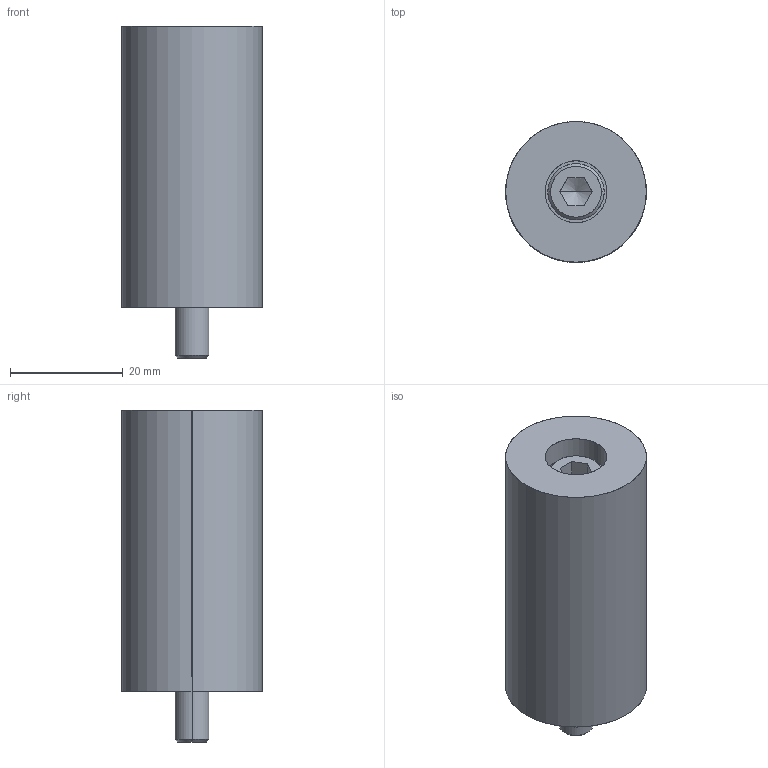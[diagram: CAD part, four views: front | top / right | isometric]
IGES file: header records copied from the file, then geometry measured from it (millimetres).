
Start section: SolidWorks IGES file using analytic representation for surfaces
Global section: file name: D:\Current\W1\TPD\c1\TPD25-50-1\TPD25-50-1.IGS; native system: SolidWorks 2017; preprocessor: SolidWorks 2017; author: Ravi Kalvai; date: 240605.183253; units: millimetre
Bounding box: 25 x 25 x 59 mm (x, y, z)
Surface area: 7321.5 mm2 (no closed solid volume)
Topology: 0 solids, 0 shells, 29 faces, 474 edges, 474 vertices
Faces by surface type: revolution 16, bspline 13
